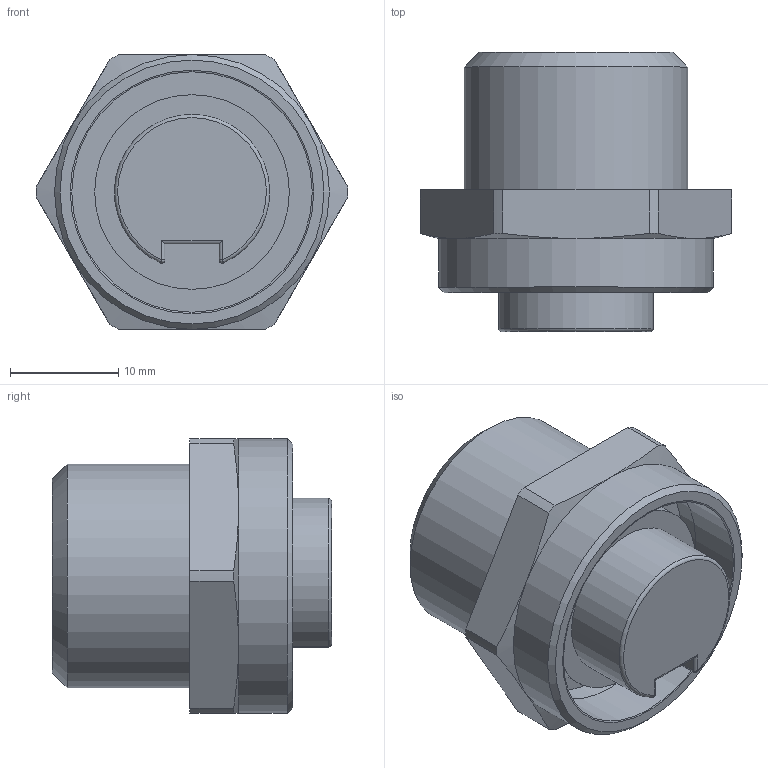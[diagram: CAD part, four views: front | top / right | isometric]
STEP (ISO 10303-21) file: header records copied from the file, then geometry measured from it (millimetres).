
FILE_DESCRIPTION(/* description */ (''),/* implementation_level */ '2;1');
FILE_NAME(/* name */ 'L:\CAD Inventor\Workspace\Catalogs\CATALOG-TURCK CONNECTORS\RKF-A-14_5NPT_ALT.stp',/* time_stamp */ '2022-03-01T09:52:41-06:00',/* author */ ('RSwans'),/* organization */ (''),/* preprocessor_version */ 'ST-DEVELOPER v16.5',/* originating_system */ 'Autodesk Inventor 2017',/* authorisation */ '');
FILE_SCHEMA (('AUTOMOTIVE_DESIGN { 1 0 10303 214 3 1 1 }'));
Length unit declared in the file: millimetre
Products named in the file (1): Part1
Bounding box: 28.8 x 25.8 x 25.4 mm (x, y, z)
Volume: 7395.7 mm3; surface area: 5059.6 mm2
Topology: 1 solids, 8 shells, 86 faces, 166 edges, 104 vertices
Faces by surface type: plane 35, cylinder 32, cone 16, sphere 2, torus 1
Full cylindrical faces by diameter (mm): 1.9 x3, 2.5 x3, 3.3 x3, 14 x3, 14.2 x2, 16 x1, 18 x1, 20.7 x1, 22.225 x1, 22.5 x1, 25.4 x1
Entity records: 2025 total; most frequent: DIRECTION 363, CARTESIAN_POINT 327, ORIENTED_EDGE 246, AXIS2_PLACEMENT_3D 165, EDGE_LOOP 128, EDGE_CURVE 123, VERTEX_POINT 93, FACE_OUTER_BOUND 86
